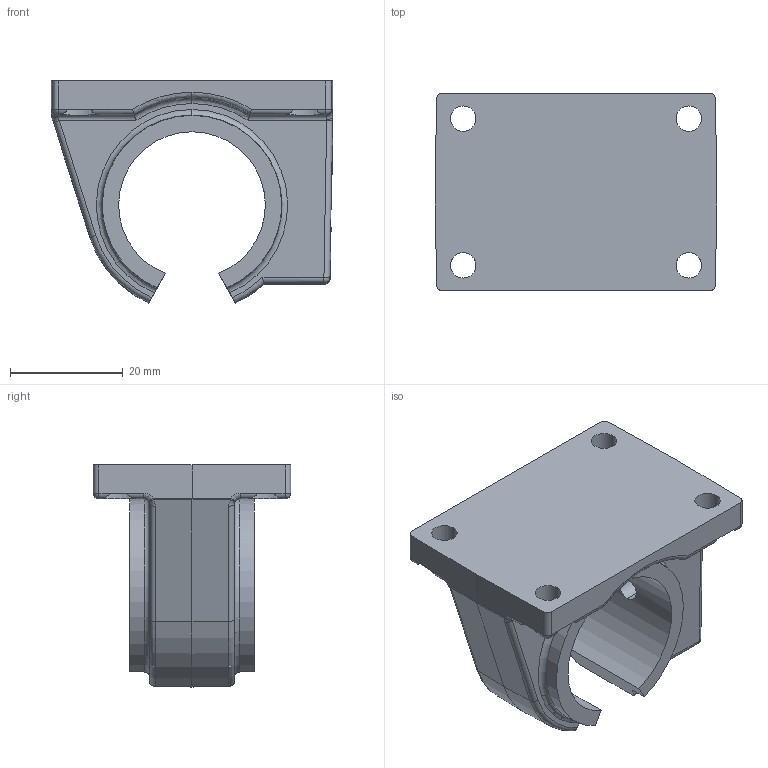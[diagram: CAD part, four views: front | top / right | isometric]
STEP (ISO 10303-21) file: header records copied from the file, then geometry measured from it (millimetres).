
FILE_DESCRIPTION (( 'STEP AP203' ), '1' );
FILE_NAME ('KGGO67-16.step', '2020-03-10T16:10:54', ( '' ), ( '' ), 'SwSTEP 2.0', 'SolidWorks 2019', '' );
FILE_SCHEMA (( 'CONFIG_CONTROL_DESIGN' ));
Length unit declared in the file: millimetre
Products named in the file (2): KGGO67-16
Bounding box: 49.98 x 35 x 39.36 mm (x, y, z)
Volume: 22542.7 mm3; surface area: 9239.1 mm2
Topology: 1 solids, 1 shells, 136 faces, 332 edges, 196 vertices
Faces by surface type: cylinder 61, plane 36, torus 16, bspline 8, sphere 8, cone 7
Entity records: 4587 total; most frequent: CARTESIAN_POINT 1345, ORIENTED_EDGE 660, DIRECTION 647, EDGE_CURVE 330, AXIS2_PLACEMENT_3D 260, VERTEX_POINT 196, EDGE_LOOP 146, ADVANCED_FACE 136
